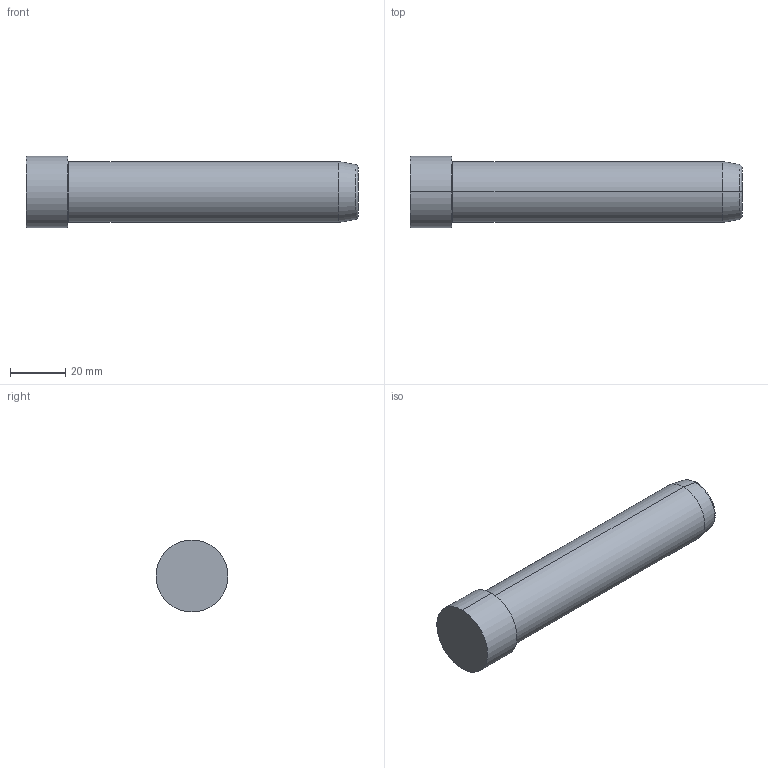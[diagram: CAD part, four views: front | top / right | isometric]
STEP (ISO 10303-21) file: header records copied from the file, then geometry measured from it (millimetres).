
FILE_DESCRIPTION( ( 'STEP AP203' ), '1' );
FILE_NAME( 'D:/Delta 3 D/D01D/22/D01D - 22x120.step', '2003-01-02T23:27:27', ( ' ' ), ( ' ' ), 'XStep 1.0', ' ', ' ' );
FILE_SCHEMA( ( 'CONFIG_CONTROL_DESIGN' ) );
Length unit declared in the file: metre
Products named in the file (1): 1
Bounding box: 120 x 26 x 26 mm (x, y, z)
Volume: 47573.4 mm3; surface area: 9459.3 mm2
Topology: 1 solids, 1 shells, 14 faces, 26 edges, 16 vertices
Faces by surface type: revolution 8, bspline 6
Entity records: 437 total; most frequent: CARTESIAN_POINT 121, ORIENTED_EDGE 52, DIRECTION 50, EDGE_CURVE 26, AXIS2_PLACEMENT_3D 17, EDGE_LOOP 16, VERTEX_POINT 16, CIRCLE 16
